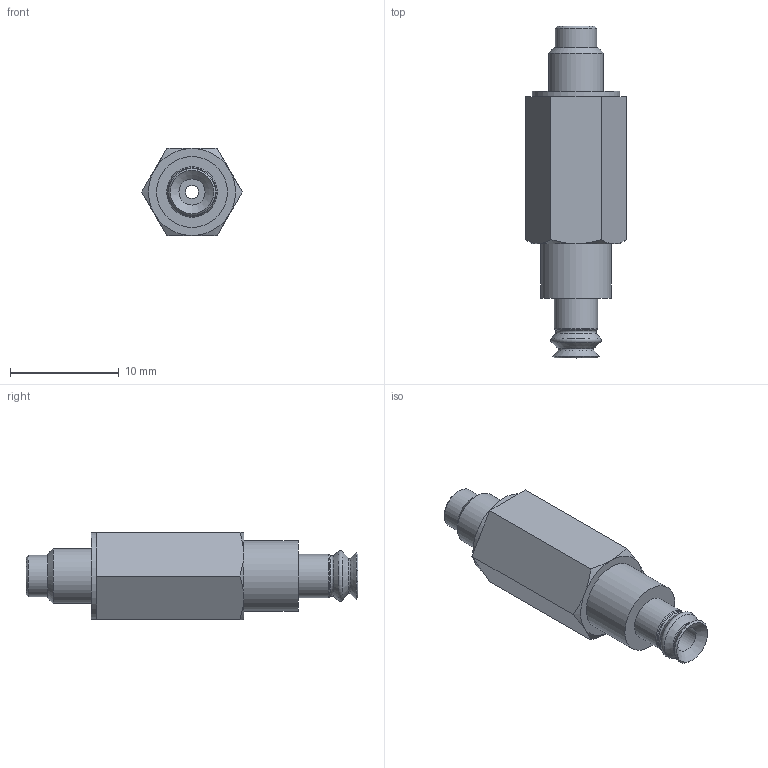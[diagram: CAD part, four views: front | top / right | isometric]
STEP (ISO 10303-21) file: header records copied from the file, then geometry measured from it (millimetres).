
FILE_DESCRIPTION(('STEP AP203'),'1');
FILE_NAME('.stp','2025-04-23T03:24:19',(' '),(' '),'Spatial InterOp 3D',' ',' ');
FILE_SCHEMA(('CONFIG_CONTROL_DESIGN'));
Length unit declared in the file: millimetre
Products named in the file (4): BPSS-S5-BPJG-4-※; PSS-S5-PFG-1.5A M body; PSS-S5-PFG-1.5A F body; BPJG-4-※
Assembly tree (3 placements, depth 2):
  BPSS-S5-BPJG-4-※
    PSS-S5-PFG-1.5A M body
    PSS-S5-PFG-1.5A F body
    BPJG-4-※
Bounding box: 9.24 x 30.5 x 8 mm (x, y, z)
Volume: 930.1 mm3; surface area: 1481.3 mm2
Topology: 3 solids, 3 shells, 65 faces, 131 edges, 79 vertices
Faces by surface type: plane 25, cylinder 15, cone 15, torus 10
Full cylindrical faces by diameter (mm): 1.2 x1, 2 x2, 2.4 x1, 2.5 x2, 3 x2, 3.5 x1, 3.8 x1, 4 x1, 5 x1, 6.5 x2, 8 x1
Entity records: 1644 total; most frequent: DIRECTION 272, CARTESIAN_POINT 251, ORIENTED_EDGE 176, AXIS2_PLACEMENT_3D 127, EDGE_LOOP 112, FACE_OUTER_BOUND 90, EDGE_CURVE 88, VERTEX_POINT 70
